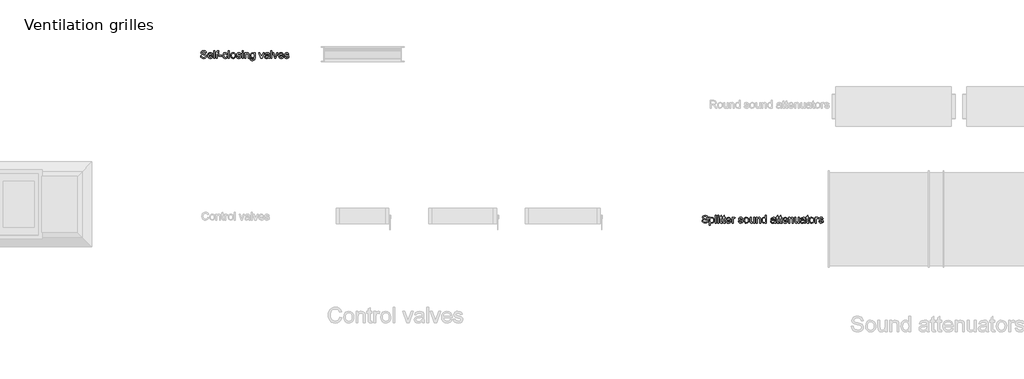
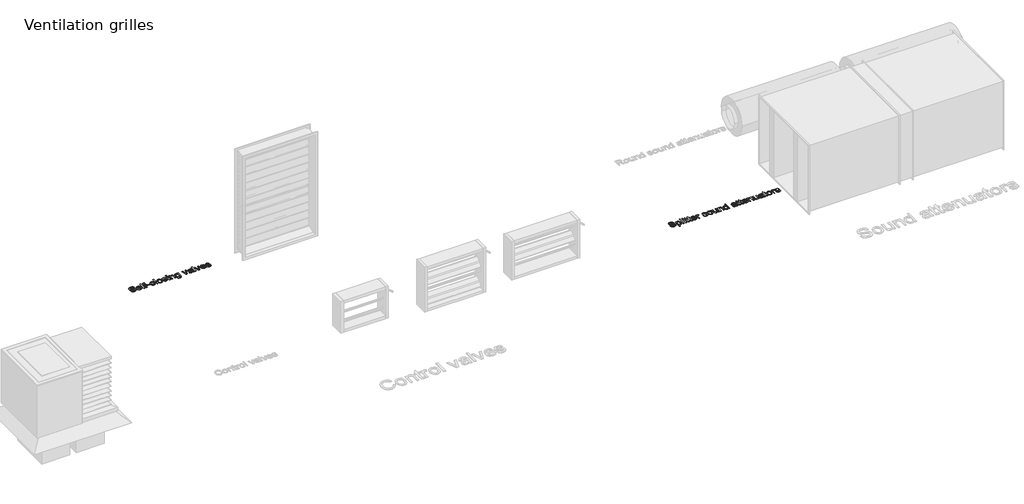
# One storey, part 9 of 10: 2 proxies.
"""IFC4 building model written with IfcOpenShell, lengths in millimetres."""

import ifcopenshell
import ifcopenshell.guid

model = None  # the IFC model being written
_history = None  # IfcOwnerHistory: only IFC2X3 demands one
_inside = {}  # id of a spatial element -> (the spatial element, [elements in it])
_under = {}  # id of a project, library or spatial element -> (it, [spatial elements below it])
_declared = {}  # id of a project -> (the project, [libraries it declares])
_typed = {}  # id of a type object -> (the type object, [elements of that type])
_made_of = {}  # id of a material, layer set ... -> (it, [elements and type objects made of it])


def new_model(schema):
    """Start an empty IFC model of exactly this schema.

    Asked for "IFC4X3", IfcOpenShell would pick the latest addendum, in which some entities
    have other attributes; the version numbers below select the first issue.
    IFC2X3 requires an IfcOwnerHistory on every rooted entity: one is made here for all.
    """
    global model, _history
    if schema == "IFC4X3":
        model = ifcopenshell.file(schema_version=(4, 3, 0, 0))
    else:
        model = ifcopenshell.file(schema=schema)
    _inside.clear()
    _under.clear()
    _declared.clear()
    _typed.clear()
    _made_of.clear()
    _history = None
    if model.schema == "IFC2X3":
        org = make("IfcOrganization", Name="unknown")
        user = make(
            "IfcPersonAndOrganization",
            ThePerson=make("IfcPerson", FamilyName="unknown"),
            TheOrganization=org,
        )
        app = make(
            "IfcApplication",
            ApplicationDeveloper=org,
            Version="unknown",
            ApplicationFullName="unknown",
            ApplicationIdentifier="unknown",
        )
        _history = make(
            "IfcOwnerHistory",
            OwningUser=user,
            OwningApplication=app,
            ChangeAction="ADDED",
            CreationDate=0,
        )
    return model


def make(cls, **values):
    """One entity of the class cls with the attributes given. An attribute that is None is left unset."""
    return model.create_entity(
        cls, **{name: value for name, value in values.items() if value is not None}
    )


def rooted(cls, **values):
    """An entity with a GlobalId (a new one), such as an element, a storey or a relation."""
    return make(cls, GlobalId=ifcopenshell.guid.new(), OwnerHistory=_history, **values)


def si_unit(unit_type, name, prefix=None):
    """IfcSIUnit, for example si_unit("LENGTHUNIT", "METRE", prefix="MILLI")."""
    return make("IfcSIUnit", UnitType=unit_type, Prefix=prefix, Name=name)


def assignment(units):
    """IfcUnitAssignment: the units of a project."""
    return None if units is None else make("IfcUnitAssignment", Units=units)


def point(xyz):
    """IfcCartesianPoint."""
    return None if xyz is None else make("IfcCartesianPoint", Coordinates=xyz)


def direction(xyz):
    """IfcDirection."""
    return None if xyz is None else make("IfcDirection", DirectionRatios=xyz)


def frame(location, z_axis=None, x_axis=None):
    """IfcAxis2Placement3D, a coordinate frame: its origin and axes. An axis left out is left unset."""
    return make(
        "IfcAxis2Placement3D",
        Location=point(location),
        Axis=direction(z_axis),
        RefDirection=direction(x_axis),
    )


def origin():
    """The frame at (0, 0, 0) with its axes left unset."""
    return frame((0.0, 0.0, 0.0))


def origin_with_axes():
    """The frame at (0, 0, 0) with the z axis (0, 0, 1) and the x axis (1, 0, 0) written out."""
    return frame((0.0, 0.0, 0.0), z_axis=(0.0, 0.0, 1.0), x_axis=(1.0, 0.0, 0.0))


def place(relative_to, where):
    """IfcLocalPlacement: puts the frame where relative to a parent placement (None: the world)."""
    return make(
        "IfcLocalPlacement", PlacementRelTo=relative_to, RelativePlacement=where
    )


def context(
    kind, dimensions, precision=None, world=None, true_north=None, identifier=None
):
    """IfcGeometricRepresentationContext, for example the 3D "Model" context."""
    return make(
        "IfcGeometricRepresentationContext",
        ContextIdentifier=identifier,
        ContextType=kind,
        CoordinateSpaceDimension=dimensions,
        Precision=precision,
        WorldCoordinateSystem=world,
        TrueNorth=true_north,
    )


def project(units=None, contexts=None):
    """IfcProject with its units and contexts."""
    return rooted(
        "IfcProject",
        Name="project",
        RepresentationContexts=contexts,
        UnitsInContext=assignment(units),
    )


def spatial(cls, under=None, at=None, **own):
    """A site, building, storey or space (cls), placed at a placement, below another one or the project."""
    s = rooted(cls, ObjectPlacement=at, **own)
    if under is not None:
        _under.setdefault(under.id(), (under, []))[1].append(s)
    return s


def polyline(points):
    """IfcPolyline through the points."""
    return make("IfcPolyline", Points=[point(p) for p in points])


def outline(outer, holes=None, kind="AREA"):
    """IfcArbitraryClosedProfileDef: a profile drawn as a closed curve; with holes, ...WithVoids."""
    if holes is None:
        return make("IfcArbitraryClosedProfileDef", ProfileType=kind, OuterCurve=outer)
    return make(
        "IfcArbitraryProfileDefWithVoids",
        ProfileType=kind,
        OuterCurve=outer,
        InnerCurves=holes,
    )


def extrude(swept, where, along, depth):
    """IfcExtrudedAreaSolid: the profile swept, set in the frame where, extruded along a direction by depth."""
    return make(
        "IfcExtrudedAreaSolid",
        SweptArea=swept,
        Position=where,
        ExtrudedDirection=direction(along),
        Depth=depth,
    )


def shape(context_of_items, identifier, shape_type, items):
    """IfcShapeRepresentation: the items that make up one representation, for example the "Body"."""
    return make(
        "IfcShapeRepresentation",
        ContextOfItems=context_of_items,
        RepresentationIdentifier=identifier,
        RepresentationType=shape_type,
        Items=items,
    )


def made_of(thing, what):
    """Note that an element or type object is made of a material, layer set ...; save() writes the relation."""
    if what is not None:
        _made_of.setdefault(what.id(), (what, []))[1].append(thing)
    return thing


def element(
    cls,
    number,
    at=None,
    inside=None,
    cuts=None,
    type_object=None,
    material=None,
    context=None,
    identifier="Body",
    shape_type=None,
    held_by="IfcProductDefinitionShape",
    body=None,
    shapes=None,
    **own,
):
    """One element of the class cls, such as IfcWall. Its Tag is "e" and its number.

    at: its placement. inside: the storey or other place that contains it. cuts: it is an
    opening in that element (IfcRelVoidsElement). A single representation is given by context,
    identifier, shape_type and body (its items); several are given by shapes. held_by: the class
    of the entity that holds the representations. save() writes the other relations.
    """
    e = rooted(cls, Tag="e%d" % number, ObjectPlacement=at, **own)
    if body is not None:
        shapes = [shape(context, identifier, shape_type, body)]
    if shapes is not None:
        e.Representation = make(held_by, Representations=shapes)
    if inside is not None:
        _inside.setdefault(inside.id(), (inside, []))[1].append(e)
    if cuts is not None:
        rooted(
            "IfcRelVoidsElement", RelatingBuildingElement=cuts, RelatedOpeningElement=e
        )
    if type_object is not None:
        _typed.setdefault(type_object.id(), (type_object, []))[1].append(e)
    return made_of(e, material)


def aggregate(whole, parts):
    """IfcRelAggregates: a whole, such as a stair, and the parts it consists of."""
    return rooted("IfcRelAggregates", RelatingObject=whole, RelatedObjects=parts)


def save(model, path):
    """Write the relations noted so far, then the file.

    IfcRelAggregates (storeys below a building ...), IfcRelContainedInSpatialStructure (elements
    in a storey), IfcRelDefinesByType, IfcRelAssociatesMaterial and IfcRelDeclares: one each for
    every whole, place, type object, material and project.
    """
    for whole, parts in _under.values():
        aggregate(whole, parts)
    for where, things in _inside.values():
        rooted(
            "IfcRelContainedInSpatialStructure",
            RelatedElements=things,
            RelatingStructure=where,
        )
    for kind, things in _typed.values():
        rooted("IfcRelDefinesByType", RelatedObjects=things, RelatingType=kind)
    for what, things in _made_of.values():
        rooted("IfcRelAssociatesMaterial", RelatedObjects=things, RelatingMaterial=what)
    for by, libraries in _declared.values():
        rooted("IfcRelDeclares", RelatingContext=by, RelatedDefinitions=libraries)
    model.write(path)


model = new_model("IFC4")

# Units and contexts
model_context = context("Model", 3, world=origin())
ifc_project = project(units=[si_unit("LENGTHUNIT", "METRE", prefix="MILLI")], contexts=[model_context])

# Site, building, storey
site = spatial("IfcSite", under=ifc_project)
building = spatial("IfcBuilding", under=site)
storey = spatial("IfcBuildingStorey", under=building, Name="Ventilation grilles", Elevation=0.0)

# Proxies
placement = place(None, origin())
element("IfcBuildingElementProxy", 1, Name="100mm", ObjectType="100mm", at=placement, inside=storey, context=model_context, shape_type="SweptSolid", body=[
    extrude(outline(polyline([(10407.86193, -12950.9932788), (10420.4189687, -12950.9932788), (10424.4656707, -12963.5625803), (10434.3494336, -12971.5088314), (10449.40807, -12974.5377265), (10462.5291945, -12972.2445954), (10471.0027431, -12965.9415505), (10473.7863835, -12957.5170528), (10471.7017189, -12949.6811663), (10463.1668566, -12943.9789954), (10444.8831214, -12939.1842667), (10425.2014347, -12932.9915865), (10414.5205941, -12923.6473838), (10411.0011897, -12911.1639214), (10415.3544599, -12896.9514137), (10428.0709142, -12886.920498), (10446.6857432, -12883.4991954), (10466.5513709, -12887.0799135), (10479.7951228, -12897.6013385), (10484.7737924, -12913.3221625), (10472.2167537, -12913.3221625), (10469.9113598, -12905.8296325), (10465.1043684, -12900.4217672), (10447.1762525, -12896.0562342), (10429.1990857, -12900.3727162), (10423.5582284, -12910.7960394), (10427.5558794, -12919.50258), (10448.0591693, -12926.5168634), (10470.2792418, -12932.8199082), (10482.4316104, -12942.9979768), (10486.3434223, -12957.1982218), (10481.8429992, -12972.2200699), (10468.893553, -12983.1829534), (10449.8985793, -12987.0947652), (10427.4700403, -12982.876385), (10413.282058, -12970.1721935), (10407.86193, -12950.9932788)])), origin_with_axes(), (0.0, 0.0, 1.0), 2.0),
    extrude(outline(polyline([(10555.2599827, -12963.5503175), (10567.5717668, -12965.1199474), (10563.1357231, -12974.396705), (10556.0570604, -12981.3312806), (10546.4951942, -12985.6538941), (10534.60954, -12987.0947652), (10519.8758661, -12984.6084961), (10508.5389693, -12977.1496886), (10501.3100881, -12965.2027208), (10498.900461, -12949.2519707), (10501.3346136, -12932.7647259), (10508.6370712, -12920.4345477), (10519.8206838, -12912.745814), (10533.8983015, -12910.1829028), (10547.5375265, -12912.7396826), (10558.4360306, -12920.4100222), (10565.5821384, -12932.715675), (10567.9641743, -12949.1783943), (10567.8905979, -12952.5629086), (10511.4574998, -12952.5629086), (10513.6310693, -12961.9622936), (10518.6802497, -12968.8723437), (10525.9673788, -12973.1213808), (10534.8547947, -12974.5377265), (10547.1665788, -12971.9135016), (10555.2599827, -12963.5503175)]), holes=[polyline([(10511.4574998, -12940.0058699), (10555.4071355, -12940.0058699), (10550.3794149, -12928.6260535), (10543.0585632, -12924.2114695), (10533.8492506, -12922.7399416), (10518.3859441, -12927.4365684), (10513.5207047, -12932.9272071), (10511.4574998, -12940.0058699)])]), origin_with_axes(), (0.0, 0.0, 1.0), 2.0),
    extrude(outline(polyline([(10580.521213, -12985.5251354), (10580.521213, -12885.0688252), (10593.0782518, -12885.0688252), (10593.0782518, -12985.5251354), (10580.521213, -12985.5251354)])), origin_with_axes(), (0.0, 0.0, 1.0), 2.0),
    extrude(outline(polyline([(10615.0530697, -12985.5251354), (10615.0530697, -12924.3095714), (10604.0656607, -12924.3095714), (10604.0656607, -12911.7525326), (10615.0530697, -12911.7525326), (10615.0530697, -12904.3213163), (10616.3774448, -12893.8489422), (10622.803117, -12886.368675), (10635.4582577, -12883.4991954), (10646.9116504, -12884.8726215), (10645.0722405, -12896.6448454), (10637.8372279, -12896.0562342), (10629.927765, -12898.1408988), (10627.6101084, -12905.9154716), (10627.6101084, -12911.7525326), (10641.736777, -12911.7525326), (10641.736777, -12924.3095714), (10627.6101084, -12924.3095714), (10627.6101084, -12985.5251354), (10615.0530697, -12985.5251354)])), origin_with_axes(), (0.0, 0.0, 1.0), 2.0),
    extrude(outline(polyline([(10646.4456666, -12955.7021683), (10646.4456666, -12943.1451295), (10685.6864127, -12943.1451295), (10685.6864127, -12955.7021683), (10646.4456666, -12955.7021683)])), origin_with_axes(), (0.0, 0.0, 1.0), 2.0),
    extrude(outline(polyline([(10746.9019767, -12958.841428), (10759.4590155, -12960.4110579), (10755.9580052, -12971.5793421), (10749.3790488, -12980.0191682), (10740.3414145, -12985.325866), (10729.4643702, -12987.0947652), (10716.107188, -12984.6268902), (10705.6624051, -12977.223265), (10698.9209675, -12965.2088522), (10696.6738217, -12948.9086141), (10700.5120571, -12928.049705), (10712.2107046, -12914.6465377), (10729.2926919, -12910.1829028), (10739.9030218, -12911.7157444), (10748.3857674, -12916.3142694), (10754.4711488, -12923.7332229), (10757.8893856, -12933.7273505), (10745.3323469, -12935.2969803), (10739.5075486, -12925.891464), (10729.3907938, -12922.7399416), (10721.2759301, -12924.2911773), (10714.8349295, -12928.9448845), (10710.6318777, -12936.9524493), (10709.2308604, -12948.5652576), (10710.6012209, -12960.3344158), (10714.7123021, -12968.3695717), (10721.0368068, -12972.9956878), (10729.0474372, -12974.5377265), (10740.8809747, -12970.6872283), (10746.9019767, -12958.841428)])), origin_with_axes(), (0.0, 0.0, 1.0), 2.0),
    extrude(outline(polyline([(10770.4464244, -12985.5251354), (10770.4464244, -12885.0688252), (10783.0034632, -12885.0688252), (10783.0034632, -12985.5251354), (10770.4464244, -12985.5251354)])), origin_with_axes(), (0.0, 0.0, 1.0), 2.0),
    extrude(outline(polyline([(10798.6997616, -12948.638834), (10801.415957, -12930.8517395), (10809.5645432, -12918.3498831), (10819.6322472, -12912.2246479), (10831.6865139, -12910.1829028), (10844.8781491, -12912.6691719), (10855.4149026, -12920.1279794), (10862.321887, -12931.9707139), (10864.6242152, -12947.6087644), (10860.5529878, -12969.9514643), (10848.6949248, -12982.5943422), (10831.6865139, -12987.0947652), (10818.3354631, -12984.6176931), (10807.8109724, -12977.1864768), (10800.9775643, -12965.0954219), (10798.6997616, -12948.638834)]), holes=[polyline([(10811.2568004, -12948.6143085), (10812.7099343, -12959.9787965), (10817.0693359, -12968.0752661), (10823.6298982, -12972.9221114), (10831.6865139, -12974.5377265), (10839.7063414, -12972.9129143), (10846.2546409, -12968.0384779), (10850.6140425, -12959.8347094), (10852.0671764, -12948.2219011), (10850.6048455, -12937.1885069), (10846.2178527, -12929.2024019), (10839.6603561, -12924.3555566), (10831.6865139, -12922.7399416), (10823.6298982, -12924.3494253), (10817.0693359, -12929.1778765), (10812.7099343, -12937.2559519), (10811.2568004, -12948.6143085)])]), origin_with_axes(), (0.0, 0.0, 1.0), 2.0),
    extrude(outline(polyline([(10874.0419943, -12963.5503175), (10886.599033, -12961.9806877), (10892.4115686, -12971.3003649), (10905.7288968, -12974.5377265), (10918.5311902, -12971.570145), (10922.7005195, -12964.6049126), (10918.5066647, -12958.9640553), (10905.581744, -12955.3833373), (10886.6726094, -12949.2397079), (10878.41979, -12942.066009), (10875.6116241, -12931.9369914), (10877.867967, -12922.580526), (10884.0238591, -12915.4313526), (10892.0068984, -12911.7157444), (10902.8103663, -12910.1829028), (10918.0897318, -12912.6477121), (10927.8018165, -12919.318639), (10932.1182986, -12930.5880908), (10919.5612598, -12932.1577206), (10914.8401075, -12925.2292764), (10903.7913849, -12922.7399416), (10891.7739064, -12925.1189118), (10888.1686629, -12930.6616672), (10889.6647163, -12934.3159617), (10894.3490804, -12937.0873394), (10905.1648111, -12939.7606152), (10923.595699, -12945.6712526), (10932.1550868, -12952.3667049), (10935.2575583, -12963.2805374), (10931.6155265, -12975.2980159), (10921.1063642, -12984.0168192), (10905.5572185, -12987.0947652), (10892.8959465, -12985.6109745), (10883.6559771, -12981.1596024), (10877.4878223, -12973.7896997), (10874.0419943, -12963.5503175)])), origin_with_axes(), (0.0, 0.0, 1.0), 2.0),
    extrude(outline(polyline([(10949.3842269, -12897.625864), (10949.3842269, -12885.0688252), (10961.9412656, -12885.0688252), (10961.9412656, -12897.625864), (10949.3842269, -12897.625864)])), origin_with_axes(), (0.0, 0.0, 1.0), 2.0),
    extrude(outline(polyline([(10949.3842269, -12985.5251354), (10949.3842269, -12911.7525326), (10961.9412656, -12911.7525326), (10961.9412656, -12985.5251354), (10949.3842269, -12985.5251354)])), origin_with_axes(), (0.0, 0.0, 1.0), 2.0),
    extrude(outline(polyline([(10980.7768238, -12985.5251354), (10980.7768238, -12911.7525326), (10993.3338626, -12911.7525326), (10993.3338626, -12922.0532285), (11002.9355826, -12913.1504842), (11016.0444444, -12910.1829028), (11027.9025074, -12912.5741358), (11035.9959113, -12918.8526551), (11039.7605704, -12928.0864932), (11040.4227579, -12940.2265991), (11040.4227579, -12985.5251354), (11027.8657192, -12985.5251354), (11027.8657192, -12941.9188562), (11026.4187167, -12930.80882), (11021.3051569, -12924.9349708), (11012.6844555, -12922.7399416), (10999.060559, -12927.6695603), (10994.7655367, -12934.8126024), (10993.3338626, -12946.3824911), (10993.3338626, -12985.5251354), (10980.7768238, -12985.5251354)])), origin_with_axes(), (0.0, 0.0, 1.0), 2.0),
    extrude(outline(polyline([(11054.5494266, -12991.8036548), (11067.1064653, -12993.3732846), (11071.1776927, -12999.9951605), (11083.3668495, -13002.7910637), (11096.2181939, -12999.6272785), (11102.3495605, -12990.7490597), (11103.2079518, -12976.1073563), (11094.3665212, -12983.1706906), (11083.5875787, -12985.5251354), (11070.6411982, -12982.7844145), (11060.9873615, -12974.5622519), (11054.9816879, -12962.5079852), (11052.9797967, -12948.270952), (11056.5727775, -12928.8099945), (11066.9715753, -12915.0389451), (11082.9744421, -12910.1829028), (11094.1764488, -12912.929755), (11103.2079518, -12921.1703117), (11103.2079518, -12911.7525326), (11115.7649906, -12911.7525326), (11115.7649906, -12975.4451687), (11112.3314253, -12999.835745), (11101.4543809, -13011.1787732), (11083.1215949, -13015.3481025), (11071.4382758, -13013.8796402), (11062.2381603, -13009.4742533), (11056.3367199, -13002.1196791), (11054.5494266, -12991.8036548)]), holes=[polyline([(11065.5368355, -12947.4125607), (11066.8765391, -12958.9303328), (11070.8956499, -12966.8489928), (11076.9381116, -12971.4383207), (11084.3478682, -12972.9680966), (11091.7024424, -12971.4475177), (11097.775561, -12966.885781), (11101.8498541, -12959.0682886), (11103.2079518, -12947.7804427), (11101.8100002, -12936.8942013), (11097.6161455, -12929.0552491), (11091.454122, -12924.3187684), (11084.1516644, -12922.7399416), (11076.9810312, -12924.294243), (11070.9692263, -12928.9571473), (11066.8949332, -12936.6796035), (11065.5368355, -12947.4125607)])]), origin_with_axes(), (0.0, 0.0, 1.0), 2.0),
    extrude(outline(polyline([(11191.941089, -12985.5251354), (11165.9931456, -12911.7525326), (11179.2859484, -12911.7525326), (11195.0067723, -12955.947423), (11199.7401873, -12970.8098556), (11204.3755005, -12956.7812888), (11220.1944263, -12911.7525326), (11233.487229, -12911.7525326), (11207.8581167, -12985.5251354), (11191.941089, -12985.5251354)])), origin_with_axes(), (0.0, 0.0, 1.0), 2.0),
    extrude(outline(polyline([(11291.5635333, -12976.1073563), (11279.3866393, -12984.6176931), (11265.934421, -12987.0947652), (11255.4405871, -12985.6048432), (11247.6997368, -12981.1350769), (11242.9264679, -12974.3476541), (11241.3353782, -12965.9047623), (11243.7388739, -12955.9719484), (11250.0541815, -12948.7614613), (11258.8465612, -12944.641183), (11269.7113428, -12942.7527221), (11291.4899569, -12938.43624), (11291.5635333, -12935.6403368), (11288.1054426, -12926.3697106), (11274.2240286, -12922.7399416), (11261.519837, -12925.1557), (11255.4620469, -12933.7273505), (11242.9050081, -12932.1577206), (11248.3373989, -12919.8949875), (11259.2757569, -12912.7090258), (11275.8427094, -12910.1829028), (11291.0607613, -12912.4147202), (11299.6569372, -12918.0187893), (11303.5074354, -12926.5413888), (11304.1205721, -12937.5287978), (11304.1205721, -12953.1515198), (11304.7582342, -12974.9669221), (11307.2598318, -12985.5251354), (11294.702793, -12985.5251354), (11291.5635333, -12976.1073563)]), holes=[polyline([(11291.5635333, -12950.9932788), (11271.3054981, -12954.843777), (11260.5020302, -12956.8793907), (11255.6091997, -12960.1903287), (11253.892417, -12965.0218455), (11257.6325506, -12971.8153997), (11268.6076968, -12974.5377265), (11281.3118884, -12971.5333568), (11289.5033941, -12964.2615561), (11291.4899569, -12954.5494714), (11291.5635333, -12950.9932788)])]), origin_with_axes(), (0.0, 0.0, 1.0), 2.0),
    extrude(outline(polyline([(11321.3865004, -12985.5251354), (11321.3865004, -12885.0688252), (11333.9435392, -12885.0688252), (11333.9435392, -12985.5251354), (11321.3865004, -12985.5251354)])), origin_with_axes(), (0.0, 0.0, 1.0), 2.0),
    extrude(outline(polyline([(11370.8788915, -12985.5251354), (11344.9309481, -12911.7525326), (11358.2237508, -12911.7525326), (11373.9445748, -12955.947423), (11378.6779898, -12970.8098556), (11383.3133029, -12956.7812888), (11399.1322287, -12911.7525326), (11412.4250315, -12911.7525326), (11386.7959191, -12985.5251354), (11370.8788915, -12985.5251354)])), origin_with_axes(), (0.0, 0.0, 1.0), 2.0),
    extrude(outline(polyline([(11475.0630725, -12963.5503175), (11487.3748566, -12965.1199474), (11482.9388129, -12974.396705), (11475.8601502, -12981.3312806), (11466.298284, -12985.6538941), (11454.4126298, -12987.0947652), (11439.6789559, -12984.6084961), (11428.3420591, -12977.1496886), (11421.1131779, -12965.2027208), (11418.7035509, -12949.2519707), (11421.1377034, -12932.7647259), (11428.440161, -12920.4345477), (11439.6237736, -12912.745814), (11453.7013913, -12910.1829028), (11467.3406163, -12912.7396826), (11478.2391204, -12920.4100222), (11485.3852282, -12932.715675), (11487.7672641, -12949.1783943), (11487.6936877, -12952.5629086), (11431.2605896, -12952.5629086), (11433.4341591, -12961.9622936), (11438.4833395, -12968.8723437), (11445.7704686, -12973.1213808), (11454.6578845, -12974.5377265), (11466.9696686, -12971.9135016), (11475.0630725, -12963.5503175)]), holes=[polyline([(11431.2605896, -12940.0058699), (11475.2102253, -12940.0058699), (11470.1825047, -12928.6260535), (11462.861653, -12924.2114695), (11453.6523404, -12922.7399416), (11438.1890339, -12927.4365684), (11433.3237945, -12932.9272071), (11431.2605896, -12940.0058699)])]), origin_with_axes(), (0.0, 0.0, 1.0), 2.0),
    extrude(outline(polyline([(11495.6154133, -12963.5503175), (11508.1724521, -12961.9806877), (11513.9849876, -12971.3003649), (11527.3023158, -12974.5377265), (11540.1046093, -12971.570145), (11544.2739385, -12964.6049126), (11540.0800838, -12958.9640553), (11527.155163, -12955.3833373), (11508.2460285, -12949.2397079), (11499.9932091, -12942.066009), (11497.1850432, -12931.9369914), (11499.4413861, -12922.580526), (11505.5972781, -12915.4313526), (11513.5803174, -12911.7157444), (11524.3837853, -12910.1829028), (11539.6631509, -12912.6477121), (11549.3752355, -12919.318639), (11553.6917176, -12930.5880908), (11541.1346788, -12932.1577206), (11536.4135266, -12925.2292764), (11525.364804, -12922.7399416), (11513.3473255, -12925.1189118), (11509.7420819, -12930.6616672), (11511.2381354, -12934.3159617), (11515.9224994, -12937.0873394), (11526.7382301, -12939.7606152), (11545.1691181, -12945.6712526), (11553.7285058, -12952.3667049), (11556.8309773, -12963.2805374), (11553.1889456, -12975.2980159), (11542.6797832, -12984.0168192), (11527.1306376, -12987.0947652), (11514.4693656, -12985.6109745), (11505.2293961, -12981.1596024), (11499.0612413, -12973.7896997), (11495.6154133, -12963.5503175)])), origin_with_axes(), (0.0, 0.0, 1.0), 2.0),
])
element("IfcBuildingElementProxy", 2, Name="100mm", ObjectType="100mm", at=placement, inside=storey, context=model_context, shape_type="SweptSolid", body=[
    extrude(outline(polyline([(16921.64584, -15089.7082033), (16934.2028788, -15089.7082033), (16938.2495807, -15102.2775048), (16948.1333436, -15110.2237559), (16963.19198, -15113.252651), (16976.3131045, -15110.9595199), (16984.7866531, -15104.6564751), (16987.5702935, -15096.2319774), (16985.4856289, -15088.3960909), (16976.9507666, -15082.69392), (16958.6670314, -15077.8991913), (16938.9853447, -15071.706511), (16928.3045041, -15062.3623084), (16924.7850997, -15049.878846), (16929.13837, -15035.6663382), (16941.8548243, -15025.6354225), (16960.4696532, -15022.2141199), (16980.3352809, -15025.794838), (16993.5790328, -15036.3162631), (16998.5577024, -15052.037087), (16986.0006637, -15052.037087), (16983.6952698, -15044.5445571), (16978.8882784, -15039.1366917), (16960.9601625, -15034.7711587), (16942.9829957, -15039.0876408), (16937.3421384, -15049.510964), (16941.3397895, -15058.2175045), (16961.8430793, -15065.2317879), (16984.0631518, -15071.5348328), (16996.2155204, -15081.7129013), (17000.1273323, -15095.9131463), (16995.6269092, -15110.9349944), (16982.677463, -15121.8978779), (16963.6824893, -15125.8096898), (16941.2539503, -15121.5913096), (16927.065968, -15108.887118), (16921.64584, -15089.7082033)])), origin_with_axes(), (0.0, 0.0, 1.0), 2.0),
    extrude(outline(polyline([(17017.3932606, -15152.4933972), (17017.3932606, -15050.4674572), (17029.9502994, -15050.4674572), (17029.9502994, -15062.7792413), (17038.6323144, -15052.3681808), (17050.3554874, -15048.8978273), (17066.272515, -15053.7538697), (17076.6713128, -15067.4390799), (17080.1784544, -15086.7896728), (17076.2175916, -15107.1335472), (17064.7151479, -15120.9904357), (17048.8349084, -15125.8096898), (17037.9088132, -15122.584591), (17029.9502994, -15114.4298734), (17029.9502994, -15152.4933972), (17017.3932606, -15152.4933972)]), holes=[polyline([(17029.9502994, -15087.9423698), (17031.3083971, -15099.1995588), (17035.3826902, -15107.0722335), (17041.3944951, -15111.7075466), (17048.5651283, -15113.252651), (17055.8522575, -15111.6523643), (17062.0173466, -15106.8515043), (17066.2203984, -15098.6906554), (17067.6214157, -15087.010402), (17066.2541209, -15075.8145266), (17062.1522367, -15067.8314873), (17056.1496288, -15063.0490214), (17049.0801631, -15061.4548661), (17041.9831063, -15063.150189), (17035.7505722, -15068.2361575), (17031.4003676, -15076.5533563), (17029.9502994, -15087.9423698)])]), origin_with_axes(), (0.0, 0.0, 1.0), 2.0),
    extrude(outline(polyline([(17094.3051231, -15124.2400599), (17094.3051231, -15023.7837498), (17106.8621618, -15023.7837498), (17106.8621618, -15124.2400599), (17094.3051231, -15124.2400599)])), origin_with_axes(), (0.0, 0.0, 1.0), 2.0),
    extrude(outline(polyline([(17125.69772, -15036.3407886), (17125.69772, -15023.7837498), (17138.2547587, -15023.7837498), (17138.2547587, -15036.3407886), (17125.69772, -15036.3407886)])), origin_with_axes(), (0.0, 0.0, 1.0), 2.0),
    extrude(outline(polyline([(17125.69772, -15124.2400599), (17125.69772, -15050.4674572), (17138.2547587, -15050.4674572), (17138.2547587, -15124.2400599), (17125.69772, -15124.2400599)])), origin_with_axes(), (0.0, 0.0, 1.0), 2.0),
    extrude(outline(polyline([(17183.7740243, -15113.7676858), (17185.3436541, -15124.6079419), (17175.9504005, -15125.8096898), (17165.4289755, -15123.7250251), (17160.1805257, -15118.2558462), (17158.6599467, -15104.0065502), (17158.6599467, -15063.0244959), (17149.2421677, -15063.0244959), (17149.2421677, -15050.4674572), (17158.6599467, -15050.4674572), (17158.6599467, -15032.5393413), (17171.2169855, -15025.1571759), (17171.2169855, -15050.4674572), (17183.7740243, -15050.4674572), (17183.7740243, -15063.0244959), (17171.2169855, -15063.0244959), (17171.2169855, -15103.6386682), (17171.8791731, -15110.1133913), (17174.0251514, -15112.4065224), (17178.3048453, -15113.252651), (17183.7740243, -15113.7676858)])), origin_with_axes(), (0.0, 0.0, 1.0), 2.0),
    extrude(outline(polyline([(17223.0147704, -15113.7676858), (17224.5844003, -15124.6079419), (17215.1911467, -15125.8096898), (17204.6697216, -15123.7250251), (17199.4212718, -15118.2558462), (17197.9006929, -15104.0065502), (17197.9006929, -15063.0244959), (17188.4829138, -15063.0244959), (17188.4829138, -15050.4674572), (17197.9006929, -15050.4674572), (17197.9006929, -15032.5393413), (17210.4577317, -15025.1571759), (17210.4577317, -15050.4674572), (17223.0147704, -15050.4674572), (17223.0147704, -15063.0244959), (17210.4577317, -15063.0244959), (17210.4577317, -15103.6386682), (17211.1199193, -15110.1133913), (17213.2658976, -15112.4065224), (17217.5455914, -15113.252651), (17223.0147704, -15113.7676858)])), origin_with_axes(), (0.0, 0.0, 1.0), 2.0),
    extrude(outline(polyline([(17287.2224413, -15102.2652421), (17299.5342254, -15103.8348719), (17295.0981817, -15113.1116296), (17288.019519, -15120.0462052), (17278.4576528, -15124.3688186), (17266.5719987, -15125.8096898), (17251.8383248, -15123.3234206), (17240.5014279, -15115.8646132), (17233.2725467, -15103.9176454), (17230.8629197, -15087.9668952), (17233.2970722, -15071.4796505), (17240.5995298, -15059.1494723), (17251.7831425, -15051.4607386), (17265.8607601, -15048.8978273), (17279.4999851, -15051.4546072), (17290.3984892, -15059.1249468), (17297.544597, -15071.4305995), (17299.9266329, -15087.8933188), (17299.8530565, -15091.2778332), (17243.4199584, -15091.2778332), (17245.5935279, -15100.6772182), (17250.6427083, -15107.5872683), (17257.9298375, -15111.8363053), (17266.8172533, -15113.252651), (17279.1290374, -15110.6284261), (17287.2224413, -15102.2652421)]), holes=[polyline([(17243.4199584, -15078.7207944), (17287.3695941, -15078.7207944), (17282.3418735, -15067.340978), (17275.0210218, -15062.9263941), (17265.8117092, -15061.4548661), (17250.3484027, -15066.1514929), (17245.4831633, -15071.6421317), (17243.4199584, -15078.7207944)])]), origin_with_axes(), (0.0, 0.0, 1.0), 2.0),
    extrude(outline(polyline([(17312.4836717, -15124.2400599), (17312.4836717, -15050.4674572), (17323.4710806, -15050.4674572), (17323.4710806, -15061.3812897), (17331.2701789, -15051.3258485), (17339.1183281, -15048.8978273), (17351.7244178, -15052.772851), (17347.5305631, -15064.0300401), (17338.7013952, -15061.4548661), (17331.6012727, -15063.9319382), (17327.0763241, -15070.7990688), (17325.0407104, -15085.4652976), (17325.0407104, -15124.2400599), (17312.4836717, -15124.2400599)])), origin_with_axes(), (0.0, 0.0, 1.0), 2.0),
    extrude(outline(polyline([(17394.1044237, -15102.2652421), (17406.6614624, -15100.6956123), (17412.4739979, -15110.0152895), (17425.7913262, -15113.252651), (17438.5936196, -15110.2850696), (17442.7629489, -15103.3198371), (17438.5690941, -15097.6789799), (17425.6441734, -15094.0982618), (17406.7350388, -15087.9546325), (17398.4822194, -15080.7809336), (17395.6740535, -15070.651916), (17397.9303964, -15061.2954506), (17404.0862885, -15054.1462771), (17412.0693278, -15050.430669), (17422.8727957, -15048.8978273), (17438.1521612, -15051.3626367), (17447.8642459, -15058.0335635), (17452.180728, -15069.3030153), (17439.6236892, -15070.8726452), (17434.9025369, -15063.9442009), (17423.8538143, -15061.4548661), (17411.8363358, -15063.8338363), (17408.2310923, -15069.3765917), (17409.7271457, -15073.0308862), (17414.4115098, -15075.8022639), (17425.2272404, -15078.4755397), (17443.6581284, -15084.3861771), (17452.2175162, -15091.0816294), (17455.3199877, -15101.995462), (17451.6779559, -15114.0129405), (17441.1687936, -15122.7317438), (17425.6196479, -15125.8096898), (17412.9583759, -15124.3258991), (17403.7184065, -15119.8745269), (17397.5502517, -15112.5046243), (17394.1044237, -15102.2652421)])), origin_with_axes(), (0.0, 0.0, 1.0), 2.0),
    extrude(outline(polyline([(17466.3073966, -15087.3537586), (17469.023592, -15069.5666641), (17477.1721782, -15057.0648076), (17487.2398821, -15050.9395724), (17499.2941488, -15048.8978273), (17512.485784, -15051.3840965), (17523.0225375, -15058.8429039), (17529.929522, -15070.6856385), (17532.2318501, -15086.323689), (17528.1606227, -15108.6663888), (17516.3025597, -15121.3092667), (17499.2941488, -15125.8096898), (17485.9430981, -15123.3326177), (17475.4186073, -15115.9014014), (17468.5851993, -15103.8103465), (17466.3073966, -15087.3537586)]), holes=[polyline([(17478.8644353, -15087.3292331), (17480.3175692, -15098.6937211), (17484.6769709, -15106.7901906), (17491.2375331, -15111.6370359), (17499.2941488, -15113.252651), (17507.3139763, -15111.6278389), (17513.8622758, -15106.7534024), (17518.2216775, -15098.5496339), (17519.6748113, -15086.9368256), (17518.2124804, -15075.9034315), (17513.8254876, -15067.9173265), (17507.2679911, -15063.0704812), (17499.2941488, -15061.4548661), (17491.2375331, -15063.0643498), (17484.6769709, -15067.892801), (17480.3175692, -15075.9708765), (17478.8644353, -15087.3292331)])]), origin_with_axes(), (0.0, 0.0, 1.0), 2.0),
    extrude(outline(polyline([(17593.4474141, -15124.2400599), (17593.4474141, -15111.5603938), (17583.6127021, -15122.2473658), (17570.7858832, -15125.8096898), (17558.9768712, -15123.3080922), (17550.8344163, -15117.0295728), (17547.0942827, -15107.783472), (17546.3585187, -15096.10935), (17546.3585187, -15050.4674572), (17558.9155575, -15050.4674572), (17558.9155575, -15090.1987127), (17559.675847, -15103.0010061), (17564.6422539, -15110.5180615), (17573.9987193, -15113.252651), (17584.4833562, -15110.4567479), (17591.4118004, -15102.8415906), (17593.4474141, -15088.849812), (17593.4474141, -15050.4674572), (17606.0044529, -15050.4674572), (17606.0044529, -15124.2400599), (17593.4474141, -15124.2400599)])), origin_with_axes(), (0.0, 0.0, 1.0), 2.0),
    extrude(outline(polyline([(17623.2703812, -15124.2400599), (17623.2703812, -15050.4674572), (17635.82742, -15050.4674572), (17635.82742, -15060.768153), (17645.42914, -15051.8654088), (17658.5380018, -15048.8978273), (17670.3960648, -15051.2890603), (17678.4894687, -15057.5675797), (17682.2541277, -15066.8014178), (17682.9163153, -15078.9415236), (17682.9163153, -15124.2400599), (17670.3592766, -15124.2400599), (17670.3592766, -15080.6337808), (17668.9122741, -15069.5237445), (17663.7987143, -15063.6498953), (17655.1780129, -15061.4548661), (17641.5541163, -15066.3844848), (17637.2590941, -15073.5275269), (17635.82742, -15085.0974157), (17635.82742, -15124.2400599), (17623.2703812, -15124.2400599)])), origin_with_axes(), (0.0, 0.0, 1.0), 2.0),
    extrude(outline(polyline([(17745.7015092, -15124.2400599), (17745.7015092, -15112.3942597), (17737.3935075, -15122.4558323), (17725.9094578, -15125.8096898), (17710.3603122, -15120.9536475), (17699.3729033, -15107.4033273), (17695.4733541, -15087.427335), (17699.0663349, -15067.4390799), (17709.8330146, -15053.6802933), (17725.8604069, -15048.8978273), (17737.436427, -15052.3191299), (17745.7015092, -15061.2096114), (17745.7015092, -15023.7837498), (17758.2585479, -15023.7837498), (17758.2585479, -15124.2400599), (17745.7015092, -15124.2400599)]), holes=[polyline([(17708.0303929, -15087.378284), (17709.4467386, -15098.7366406), (17713.6957756, -15106.8147161), (17719.8700618, -15111.6431673), (17727.0621548, -15113.252651), (17734.2511821, -15111.7167437), (17740.2691184, -15107.1090217), (17744.3434115, -15099.3436459), (17745.7015092, -15088.3347772), (17744.318886, -15076.2989046), (17740.1710165, -15067.9541147), (17733.999796, -15063.0796782), (17726.54712, -15061.4548661), (17719.2814506, -15063.0152989), (17713.3278936, -15067.6965973), (17709.3547681, -15075.7378846), (17708.0303929, -15087.378284)])]), origin_with_axes(), (0.0, 0.0, 1.0), 2.0),
    extrude(outline(polyline([(17863.4237476, -15114.8222809), (17851.2468536, -15123.3326177), (17837.7946353, -15125.8096898), (17827.3008014, -15124.3197677), (17819.5599511, -15119.8500015), (17814.7866822, -15113.0625787), (17813.1955926, -15104.6196869), (17815.5990883, -15094.686873), (17821.9143958, -15087.4763859), (17830.7067755, -15083.3561075), (17841.5715571, -15081.4676466), (17863.3501712, -15077.1511646), (17863.4237476, -15074.3552614), (17859.9656569, -15065.0846351), (17846.0842429, -15061.4548661), (17833.3800514, -15063.8706245), (17827.3222612, -15072.442275), (17814.7652224, -15070.8726452), (17820.1976132, -15058.609912), (17831.1359712, -15051.4239504), (17847.7029237, -15048.8978273), (17862.9209756, -15051.1296448), (17871.5171515, -15056.7337138), (17875.3676497, -15065.2563134), (17875.9807864, -15076.2437223), (17875.9807864, -15091.8664444), (17876.6184485, -15113.6818467), (17879.1200461, -15124.2400599), (17866.5630073, -15124.2400599), (17863.4237476, -15114.8222809)]), holes=[polyline([(17863.4237476, -15089.7082033), (17843.1657124, -15093.5587015), (17832.3622445, -15095.5943153), (17827.469414, -15098.9052532), (17825.7526313, -15103.7367701), (17829.4927649, -15110.5303243), (17840.4679111, -15113.252651), (17853.1721027, -15110.2482814), (17861.3636085, -15102.9764806), (17863.3501712, -15093.2643959), (17863.4237476, -15089.7082033)])]), origin_with_axes(), (0.0, 0.0, 1.0), 2.0),
    extrude(outline(polyline([(17919.9304221, -15113.7676858), (17921.5000519, -15124.6079419), (17912.1067983, -15125.8096898), (17901.5853733, -15123.7250251), (17896.3369235, -15118.2558462), (17894.8163446, -15104.0065502), (17894.8163446, -15063.0244959), (17885.3985655, -15063.0244959), (17885.3985655, -15050.4674572), (17894.8163446, -15050.4674572), (17894.8163446, -15032.5393413), (17907.3733833, -15025.1571759), (17907.3733833, -15050.4674572), (17919.9304221, -15050.4674572), (17919.9304221, -15063.0244959), (17907.3733833, -15063.0244959), (17907.3733833, -15103.6386682), (17908.0355709, -15110.1133913), (17910.1815492, -15112.4065224), (17914.4612431, -15113.252651), (17919.9304221, -15113.7676858)])), origin_with_axes(), (0.0, 0.0, 1.0), 2.0),
    extrude(outline(polyline([(17959.1711682, -15113.7676858), (17960.7407981, -15124.6079419), (17951.3475445, -15125.8096898), (17940.8261194, -15123.7250251), (17935.5776696, -15118.2558462), (17934.0570907, -15104.0065502), (17934.0570907, -15063.0244959), (17924.6393116, -15063.0244959), (17924.6393116, -15050.4674572), (17934.0570907, -15050.4674572), (17934.0570907, -15032.5393413), (17946.6141295, -15025.1571759), (17946.6141295, -15050.4674572), (17959.1711682, -15050.4674572), (17959.1711682, -15063.0244959), (17946.6141295, -15063.0244959), (17946.6141295, -15103.6386682), (17947.2763171, -15110.1133913), (17949.4222954, -15112.4065224), (17953.7019893, -15113.252651), (17959.1711682, -15113.7676858)])), origin_with_axes(), (0.0, 0.0, 1.0), 2.0),
    extrude(outline(polyline([(18023.3788391, -15102.2652421), (18035.6906232, -15103.8348719), (18031.2545795, -15113.1116296), (18024.1759168, -15120.0462052), (18014.6140506, -15124.3688186), (18002.7283965, -15125.8096898), (17987.9947226, -15123.3234206), (17976.6578258, -15115.8646132), (17969.4289445, -15103.9176454), (17967.0193175, -15087.9668952), (17969.45347, -15071.4796505), (17976.7559276, -15059.1494723), (17987.9395403, -15051.4607386), (18002.017158, -15048.8978273), (18015.6563829, -15051.4546072), (18026.554887, -15059.1249468), (18033.7009948, -15071.4305995), (18036.0830307, -15087.8933188), (18036.0094543, -15091.2778332), (17979.5763562, -15091.2778332), (17981.7499257, -15100.6772182), (17986.7991061, -15107.5872683), (17994.0862353, -15111.8363053), (18002.9736511, -15113.252651), (18015.2854352, -15110.6284261), (18023.3788391, -15102.2652421)]), holes=[polyline([(17979.5763562, -15078.7207944), (18023.5259919, -15078.7207944), (18018.4982713, -15067.340978), (18011.1774196, -15062.9263941), (18001.968107, -15061.4548661), (17986.5048005, -15066.1514929), (17981.6395611, -15071.6421317), (17979.5763562, -15078.7207944)])]), origin_with_axes(), (0.0, 0.0, 1.0), 2.0),
    extrude(outline(polyline([(18048.6400695, -15124.2400599), (18048.6400695, -15050.4674572), (18061.1971082, -15050.4674572), (18061.1971082, -15060.768153), (18070.7988283, -15051.8654088), (18083.9076901, -15048.8978273), (18095.7657531, -15051.2890603), (18103.859157, -15057.5675797), (18107.623816, -15066.8014178), (18108.2860036, -15078.9415236), (18108.2860036, -15124.2400599), (18095.7289649, -15124.2400599), (18095.7289649, -15080.6337808), (18094.2819623, -15069.5237445), (18089.1684026, -15063.6498953), (18080.5477012, -15061.4548661), (18066.9238046, -15066.3844848), (18062.6287823, -15073.5275269), (18061.1971082, -15085.0974157), (18061.1971082, -15124.2400599), (18048.6400695, -15124.2400599)])), origin_with_axes(), (0.0, 0.0, 1.0), 2.0),
    extrude(outline(polyline([(18172.6408273, -15124.2400599), (18172.6408273, -15111.5603938), (18162.8061153, -15122.2473658), (18149.9792964, -15125.8096898), (18138.1702844, -15123.3080922), (18130.0278295, -15117.0295728), (18126.2876959, -15107.783472), (18125.5519319, -15096.10935), (18125.5519319, -15050.4674572), (18138.1089707, -15050.4674572), (18138.1089707, -15090.1987127), (18138.8692602, -15103.0010061), (18143.8356671, -15110.5180615), (18153.1921325, -15113.252651), (18163.6767694, -15110.4567479), (18170.6052136, -15102.8415906), (18172.6408273, -15088.849812), (18172.6408273, -15050.4674572), (18185.1978661, -15050.4674572), (18185.1978661, -15124.2400599), (18172.6408273, -15124.2400599)])), origin_with_axes(), (0.0, 0.0, 1.0), 2.0),
    extrude(outline(polyline([(18249.5526898, -15114.8222809), (18237.3757957, -15123.3326177), (18223.9235774, -15125.8096898), (18213.4297435, -15124.3197677), (18205.6888932, -15119.8500015), (18200.9156243, -15113.0625787), (18199.3245347, -15104.6196869), (18201.7280304, -15094.686873), (18208.043338, -15087.4763859), (18216.8357177, -15083.3561075), (18227.7004993, -15081.4676466), (18249.4791134, -15077.1511646), (18249.5526898, -15074.3552614), (18246.094599, -15065.0846351), (18232.2131851, -15061.4548661), (18219.5089935, -15063.8706245), (18213.4512033, -15072.442275), (18200.8941645, -15070.8726452), (18206.3265553, -15058.609912), (18217.2649133, -15051.4239504), (18233.8318658, -15048.8978273), (18249.0499177, -15051.1296448), (18257.6460937, -15056.7337138), (18261.4965919, -15065.2563134), (18262.1097285, -15076.2437223), (18262.1097285, -15091.8664444), (18262.7473907, -15113.6818467), (18265.2489882, -15124.2400599), (18252.6919495, -15124.2400599), (18249.5526898, -15114.8222809)]), holes=[polyline([(18249.5526898, -15089.7082033), (18229.2946546, -15093.5587015), (18218.4911866, -15095.5943153), (18213.5983561, -15098.9052532), (18211.8815735, -15103.7367701), (18215.6217071, -15110.5303243), (18226.5968533, -15113.252651), (18239.3010448, -15110.2482814), (18247.4925506, -15102.9764806), (18249.4791134, -15093.2643959), (18249.5526898, -15089.7082033)])]), origin_with_axes(), (0.0, 0.0, 1.0), 2.0),
    extrude(outline(polyline([(18306.0593642, -15113.7676858), (18307.6289941, -15124.6079419), (18298.2357405, -15125.8096898), (18287.7143154, -15123.7250251), (18282.4658656, -15118.2558462), (18280.9452867, -15104.0065502), (18280.9452867, -15063.0244959), (18271.5275076, -15063.0244959), (18271.5275076, -15050.4674572), (18280.9452867, -15050.4674572), (18280.9452867, -15032.5393413), (18293.5023255, -15025.1571759), (18293.5023255, -15050.4674572), (18306.0593642, -15050.4674572), (18306.0593642, -15063.0244959), (18293.5023255, -15063.0244959), (18293.5023255, -15103.6386682), (18294.1645131, -15110.1133913), (18296.3104914, -15112.4065224), (18300.5901852, -15113.252651), (18306.0593642, -15113.7676858)])), origin_with_axes(), (0.0, 0.0, 1.0), 2.0),
    extrude(outline(polyline([(18315.4771433, -15087.3537586), (18318.1933387, -15069.5666641), (18326.3419249, -15057.0648076), (18336.4096288, -15050.9395724), (18348.4638955, -15048.8978273), (18361.6555308, -15051.3840965), (18372.1922842, -15058.8429039), (18379.0992687, -15070.6856385), (18381.4015968, -15086.323689), (18377.3303694, -15108.6663888), (18365.4723065, -15121.3092667), (18348.4638955, -15125.8096898), (18335.1128448, -15123.3326177), (18324.5883541, -15115.9014014), (18317.754946, -15103.8103465), (18315.4771433, -15087.3537586)]), holes=[polyline([(18328.0341821, -15087.3292331), (18329.487316, -15098.6937211), (18333.8467176, -15106.7901906), (18340.4072798, -15111.6370359), (18348.4638955, -15113.252651), (18356.483723, -15111.6278389), (18363.0320226, -15106.7534024), (18367.3914242, -15098.5496339), (18368.8445581, -15086.9368256), (18367.3822271, -15075.9034315), (18362.9952344, -15067.9173265), (18356.4377378, -15063.0704812), (18348.4638955, -15061.4548661), (18340.4072798, -15063.0643498), (18333.8467176, -15067.892801), (18329.487316, -15075.9708765), (18328.0341821, -15087.3292331)])]), origin_with_axes(), (0.0, 0.0, 1.0), 2.0),
    extrude(outline(polyline([(18395.5282655, -15124.2400599), (18395.5282655, -15050.4674572), (18406.5156744, -15050.4674572), (18406.5156744, -15061.3812897), (18414.3147727, -15051.3258485), (18422.1629219, -15048.8978273), (18434.7690116, -15052.772851), (18430.5751569, -15064.0300401), (18421.745989, -15061.4548661), (18414.6458665, -15063.9319382), (18410.1209179, -15070.7990688), (18408.0853042, -15085.4652976), (18408.0853042, -15124.2400599), (18395.5282655, -15124.2400599)])), origin_with_axes(), (0.0, 0.0, 1.0), 2.0),
    extrude(outline(polyline([(18437.9082713, -15102.2652421), (18450.4653101, -15100.6956123), (18456.2778456, -15110.0152895), (18469.5951738, -15113.252651), (18482.3974673, -15110.2850696), (18486.5667965, -15103.3198371), (18482.3729418, -15097.6789799), (18469.448021, -15094.0982618), (18450.5388865, -15087.9546325), (18442.286067, -15080.7809336), (18439.4779011, -15070.651916), (18441.7342441, -15061.2954506), (18447.8901361, -15054.1462771), (18455.8731754, -15050.430669), (18466.6766433, -15048.8978273), (18481.9560089, -15051.3626367), (18491.6680935, -15058.0335635), (18495.9845756, -15069.3030153), (18483.4275368, -15070.8726452), (18478.7063846, -15063.9442009), (18467.657662, -15061.4548661), (18455.6401835, -15063.8338363), (18452.0349399, -15069.3765917), (18453.5309934, -15073.0308862), (18458.2153574, -15075.8022639), (18469.0310881, -15078.4755397), (18487.4619761, -15084.3861771), (18496.0213638, -15091.0816294), (18499.1238353, -15101.995462), (18495.4818035, -15114.0129405), (18484.9726412, -15122.7317438), (18469.4234956, -15125.8096898), (18456.7622236, -15124.3258991), (18447.5222541, -15119.8745269), (18441.3540993, -15112.5046243), (18437.9082713, -15102.2652421)])), origin_with_axes(), (0.0, 0.0, 1.0), 2.0),
])

save(model, "model.ifc")
